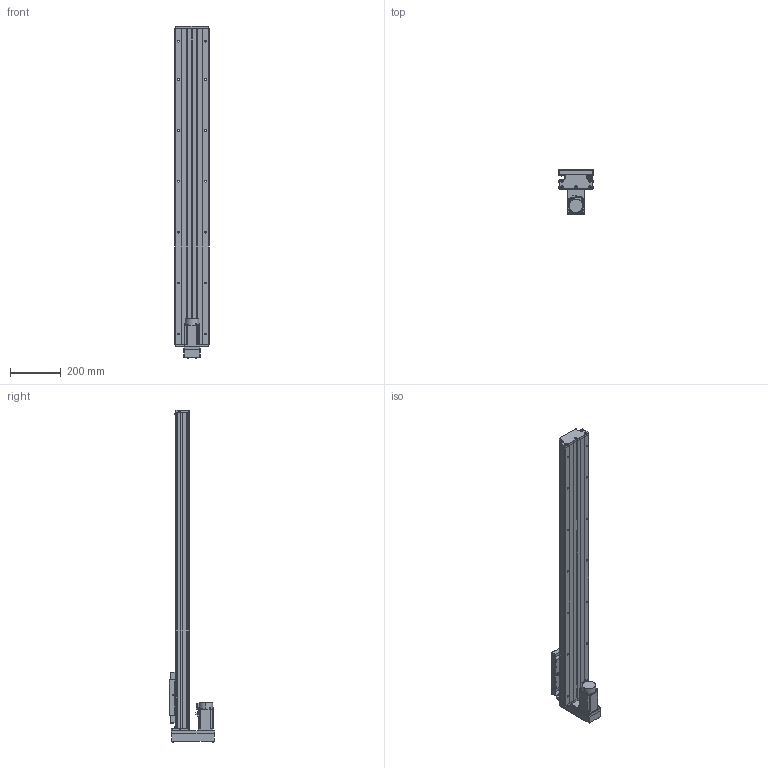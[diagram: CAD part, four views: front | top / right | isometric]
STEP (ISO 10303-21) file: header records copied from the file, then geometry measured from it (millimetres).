
FILE_DESCRIPTION (( 'STEP AP203' ), '1' );
FILE_NAME ('GTH14-1000-BM-M40-C4.step', '2023-06-30T08:43:56', ( '微软用户' ), ( '微软中国' ), 'SwSTEP 2.0', 'SolidWorks 2020', '' );
FILE_SCHEMA (( 'CONFIG_CONTROL_DESIGN' ));
Length unit declared in the file: millimetre
Products named in the file (19): HG-KN43J-S100; GTH14-002_GTH14-002; CTHA60-016; GBT 70.2-M4¡Á35_M4¡Á35; GTH14-004; GBT 70.1-M3℅5; GTH14-015-2_CTHA86-015-2; GTH14-005; GBT77-2000 M3×3; GTH14-033; GB1155-6X6; GTH14-031; GTH14-1000-BM-M40-C4; GBT70.1 M5℅16; GBT 70.2-M3¡Á5_M3¡Á6; CTHA60-017; す晦芛蹟隊 M3℅5; GTH14-001_1000; EE_SX911P_R
Assembly tree (58 placements, depth 2):
  GTH14-1000-BM-M40-C4
    GTH14-001_1000
    GTH14-002_GTH14-002
    GTH14-004
    GTH14-005
    GB1155-6X6  x2
    GBT70.1 M5℅16  x10
    CTHA60-017  x3
    EE_SX911P_R  x3
    CTHA60-016  x2
    GBT 70.1-M3℅5  x6
    GBT77-2000 M3×3  x6
    GTH14-031
    GBT 70.2-M3¡Á5_M3¡Á6  x8
    す晦芛蹟隊 M3℅5  x6
    HG-KN43J-S100
    GBT 70.2-M4¡Á35_M4¡Á35  x4
    GTH14-015-2_CTHA86-015-2
    GTH14-033
Bounding box: 135 x 177.5 x 1304.2 mm (x, y, z)
Volume: 6965183.6 mm3; surface area: 1121619.8 mm2
Topology: 61 solids, 61 shells, 2473 faces, 5881 edges, 3626 vertices
Faces by surface type: plane 1311, cylinder 672, cone 314, torus 124, sphere 32, bspline 20
Entity records: 44774 total; most frequent: CARTESIAN_POINT 9957, DIRECTION 6609, ORIENTED_EDGE 6452, EDGE_CURVE 3226, AXIS2_PLACEMENT_3D 2270, VECTOR 2069, LINE 2069, VERTEX_POINT 2044
